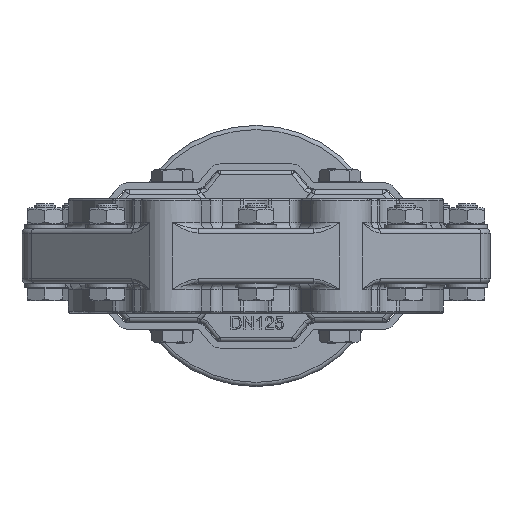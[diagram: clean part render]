
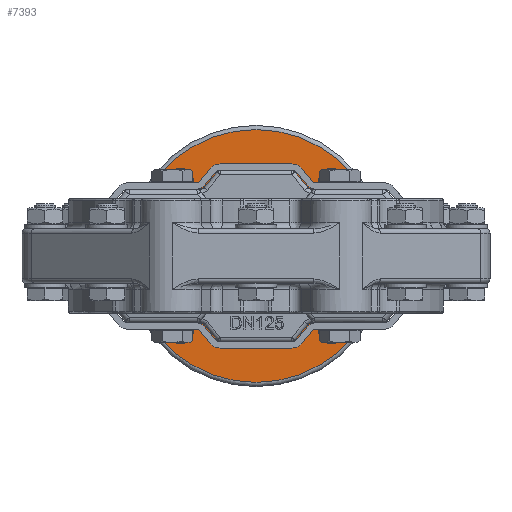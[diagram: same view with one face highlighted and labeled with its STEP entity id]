
A CAD part, front view. The second image highlights one B-rep face of the part: STEP entity #7393.
In plain terms, the highlighted planar face has unit normal (0, -1, 0).
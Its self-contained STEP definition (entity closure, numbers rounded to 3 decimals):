
#7393=ADVANCED_FACE('',(#13810,#13811,#13812,#13813,#13814,#13815,#13816,
#13817,#13818,#13819),#8379,.T.);
#8379=PLANE('',#40934);
#13810=FACE_BOUND('',#16500,.T.);
#13811=FACE_BOUND('',#16501,.T.);
#13812=FACE_BOUND('',#16502,.T.);
#13813=FACE_BOUND('',#16503,.T.);
#13814=FACE_BOUND('',#16504,.T.);
#13815=FACE_BOUND('',#16505,.T.);
#13816=FACE_BOUND('',#16506,.T.);
#13817=FACE_BOUND('',#16507,.T.);
#13818=FACE_BOUND('',#16508,.T.);
#13819=FACE_BOUND('',#16509,.T.);
#16500=EDGE_LOOP('',(#26737));
#16501=EDGE_LOOP('',(#26738));
#16502=EDGE_LOOP('',(#26739));
#16503=EDGE_LOOP('',(#26740));
#16504=EDGE_LOOP('',(#26741));
#16505=EDGE_LOOP('',(#26742));
#16506=EDGE_LOOP('',(#26743));
#16507=EDGE_LOOP('',(#26744));
#16508=EDGE_LOOP('',(#26745));
#16509=EDGE_LOOP('',(#26746));
#26737=ORIENTED_EDGE('',*,*,#35731,.T.);
#26738=ORIENTED_EDGE('',*,*,#35736,.T.);
#26739=ORIENTED_EDGE('',*,*,#35743,.F.);
#26740=ORIENTED_EDGE('',*,*,#35748,.F.);
#26741=ORIENTED_EDGE('',*,*,#35753,.F.);
#26742=ORIENTED_EDGE('',*,*,#35755,.F.);
#26743=ORIENTED_EDGE('',*,*,#35757,.F.);
#26744=ORIENTED_EDGE('',*,*,#35759,.F.);
#26745=ORIENTED_EDGE('',*,*,#35765,.T.);
#26746=ORIENTED_EDGE('',*,*,#35763,.T.);
#30517=VERTEX_POINT('',#70868);
#30522=VERTEX_POINT('',#70879);
#30529=VERTEX_POINT('',#70895);
#30534=VERTEX_POINT('',#70906);
#30539=VERTEX_POINT('',#70917);
#30541=VERTEX_POINT('',#70922);
#30543=VERTEX_POINT('',#70927);
#30545=VERTEX_POINT('',#70932);
#30549=VERTEX_POINT('',#70942);
#30551=VERTEX_POINT('',#70947);
#35731=EDGE_CURVE('',#30517,#30517,#37468,.T.);
#35736=EDGE_CURVE('',#30522,#30522,#37471,.T.);
#35743=EDGE_CURVE('',#30529,#30529,#37476,.T.);
#35748=EDGE_CURVE('',#30534,#30534,#37479,.T.);
#35753=EDGE_CURVE('',#30539,#30539,#37482,.T.);
#35755=EDGE_CURVE('',#30541,#30541,#37484,.T.);
#35757=EDGE_CURVE('',#30543,#30543,#37486,.T.);
#35759=EDGE_CURVE('',#30545,#30545,#37488,.T.);
#35763=EDGE_CURVE('',#30549,#30549,#37492,.T.);
#35765=EDGE_CURVE('',#30551,#30551,#37494,.T.);
#37468=CIRCLE('',#40880,4.5);
#37471=CIRCLE('',#40884,4.5);
#37476=CIRCLE('',#40891,4.5);
#37479=CIRCLE('',#40895,4.5);
#37482=CIRCLE('',#40899,6.);
#37484=CIRCLE('',#40902,6.);
#37486=CIRCLE('',#40905,6.);
#37488=CIRCLE('',#40908,6.);
#37492=CIRCLE('',#40914,60.5);
#37494=CIRCLE('',#40917,29.);
#40880=AXIS2_PLACEMENT_3D('',#70867,#50110,#50111);
#40884=AXIS2_PLACEMENT_3D('',#70878,#50120,#50121);
#40891=AXIS2_PLACEMENT_3D('',#70894,#50136,#50137);
#40895=AXIS2_PLACEMENT_3D('',#70905,#50146,#50147);
#40899=AXIS2_PLACEMENT_3D('',#70916,#50156,#50157);
#40902=AXIS2_PLACEMENT_3D('',#70921,#50162,#50163);
#40905=AXIS2_PLACEMENT_3D('',#70926,#50168,#50169);
#40908=AXIS2_PLACEMENT_3D('',#70931,#50174,#50175);
#40914=AXIS2_PLACEMENT_3D('',#70941,#50186,#50187);
#40917=AXIS2_PLACEMENT_3D('',#70946,#50192,#50193);
#40934=AXIS2_PLACEMENT_3D('',#70967,#50226,#50227);
#50110=DIRECTION('',(0.,1.,0.));
#50111=DIRECTION('',(0.,0.,-1.));
#50120=DIRECTION('',(0.,1.,0.));
#50121=DIRECTION('',(0.,0.,-1.));
#50136=DIRECTION('',(0.,-1.,0.));
#50137=DIRECTION('',(0.,0.,-1.));
#50146=DIRECTION('',(0.,-1.,0.));
#50147=DIRECTION('',(0.,0.,-1.));
#50156=DIRECTION('',(0.,-1.,0.));
#50157=DIRECTION('',(0.,0.,-1.));
#50162=DIRECTION('',(0.,-1.,0.));
#50163=DIRECTION('',(0.,0.,-1.));
#50168=DIRECTION('',(0.,-1.,0.));
#50169=DIRECTION('',(0.,0.,-1.));
#50174=DIRECTION('',(0.,-1.,0.));
#50175=DIRECTION('',(0.,0.,-1.));
#50186=DIRECTION('',(0.,-1.,0.));
#50187=DIRECTION('',(0.,0.,-1.));
#50192=DIRECTION('',(0.,1.,0.));
#50193=DIRECTION('',(0.,0.,-1.));
#50226=DIRECTION('',(0.,-1.,0.));
#50227=DIRECTION('',(0.,0.,-1.));
#70867=CARTESIAN_POINT('',(-24.749,394.,24.749));
#70868=CARTESIAN_POINT('',(-24.749,394.,20.249));
#70878=CARTESIAN_POINT('',(24.749,394.,24.749));
#70879=CARTESIAN_POINT('',(24.749,394.,20.249));
#70894=CARTESIAN_POINT('',(24.749,394.,-24.749));
#70895=CARTESIAN_POINT('',(24.749,394.,-29.249));
#70905=CARTESIAN_POINT('',(-24.749,394.,-24.749));
#70906=CARTESIAN_POINT('',(-24.749,394.,-29.249));
#70916=CARTESIAN_POINT('',(-36.062,394.,36.062));
#70917=CARTESIAN_POINT('',(-36.062,394.,30.062));
#70921=CARTESIAN_POINT('',(36.062,394.,36.062));
#70922=CARTESIAN_POINT('',(36.062,394.,30.062));
#70926=CARTESIAN_POINT('',(-36.062,394.,-36.062));
#70927=CARTESIAN_POINT('',(-36.062,394.,-42.062));
#70931=CARTESIAN_POINT('',(36.062,394.,-36.062));
#70932=CARTESIAN_POINT('',(36.062,394.,-42.062));
#70941=CARTESIAN_POINT('',(0.,394.,0.));
#70942=CARTESIAN_POINT('',(0.,394.,-60.5));
#70946=CARTESIAN_POINT('',(0.,394.,0.));
#70947=CARTESIAN_POINT('',(0.,394.,-29.));
#70967=CARTESIAN_POINT('',(0.,394.,0.));
